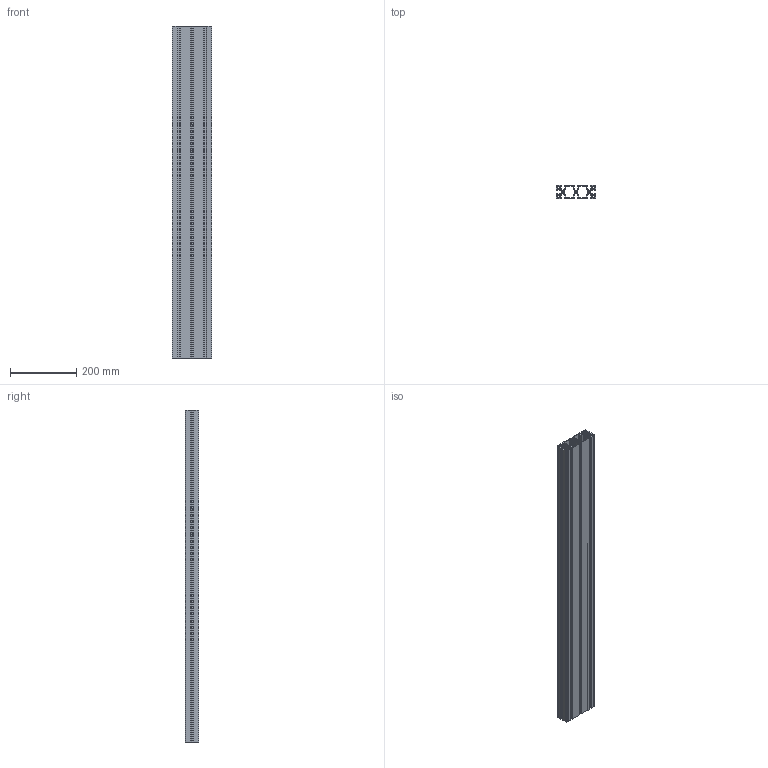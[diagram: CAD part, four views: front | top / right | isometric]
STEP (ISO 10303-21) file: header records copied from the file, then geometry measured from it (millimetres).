
FILE_DESCRIPTION(/* description */ (''),/* implementation_level */ '2;1');
FILE_NAME(/* name */ 'C:\Users\AMS43\Documents\Inventor\AMS\misumi\\X2\30D530EC30FC30E0\X0\_ipt\フレーム_stp\AFS-40120-8.ipt.stp',/* time_stamp */ '2016-10-06T11:43:58+09:00',/* author */ ('AMS43'),/* organization */ (''),/* preprocessor_version */ 'ST-DEVELOPER v15.2',/* originating_system */ 'Autodesk Inventor 2014',/* authorisation */ '');
FILE_SCHEMA (('AUTOMOTIVE_DESIGN { 1 0 10303 214 3 1 1 }'));
Length unit declared in the file: metre
Products named in the file (1): AFS-40120-8
Bounding box: 120 x 40 x 1000 mm (x, y, z)
Volume: 1293570.1 mm3; surface area: 1099454.2 mm2
Topology: 1 solids, 1 shells, 349 faces, 1041 edges, 694 vertices
Faces by surface type: plane 178, cylinder 171
Full cylindrical faces by diameter (mm): 6.8 x3
Entity records: 11869 total; most frequent: CARTESIAN_POINT 2082, DIRECTION 2080, ORIENTED_EDGE 2076, EDGE_CURVE 1038, LINE 696, VECTOR 696, VERTEX_POINT 694, AXIS2_PLACEMENT_3D 692
